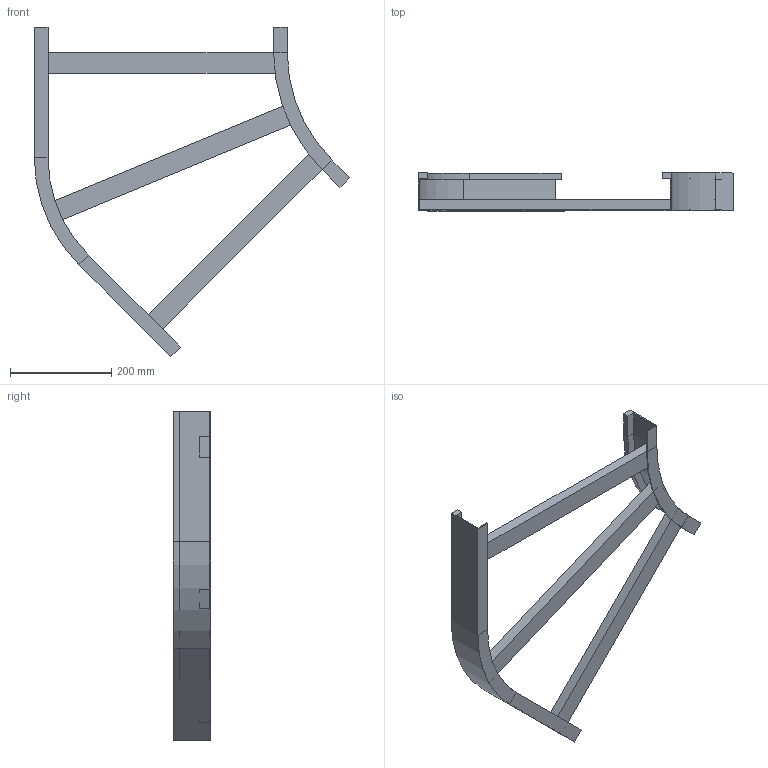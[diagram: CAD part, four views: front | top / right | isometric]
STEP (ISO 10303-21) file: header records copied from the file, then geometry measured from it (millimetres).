
FILE_DESCRIPTION (( 'STEP AP214' ), '1' );
FILE_NAME ('B2_11B3C500.step', '2025-02-21T15:16:40', ( '' ), ( '' ), 'SwSTEP 2.0', 'SolidWorks 2023', '' );
FILE_SCHEMA (( 'AUTOMOTIVE_DESIGN' ));
Length unit declared in the file: millimetre
Products named in the file (5): B2_LONGH.ESTERNO 45°_H75_R300+500; TRAVERSINO_500; B2_LONGH.INTERNO 45°_H75_R300; TRAVERSINO_L536; B2_11B3C500
Assembly tree (5 placements, depth 2):
  B2_11B3C500
    B2_LONGH.INTERNO 45°_H75_R300
    B2_LONGH.ESTERNO 45°_H75_R300+500
    TRAVERSINO_500  x2
    TRAVERSINO_L536
Bounding box: 623.22 x 75 x 651.04 mm (x, y, z)
Volume: 1663177.4 mm3; surface area: 447482.8 mm2
Topology: 5 solids, 5 shells, 70 faces, 148 edges, 88 vertices
Faces by surface type: plane 62, cylinder 8
Entity records: 1822 total; most frequent: DIRECTION 296, CARTESIAN_POINT 288, ORIENTED_EDGE 272, EDGE_CURVE 136, VECTOR 120, LINE 120, AXIS2_PLACEMENT_3D 88, VERTEX_POINT 80
